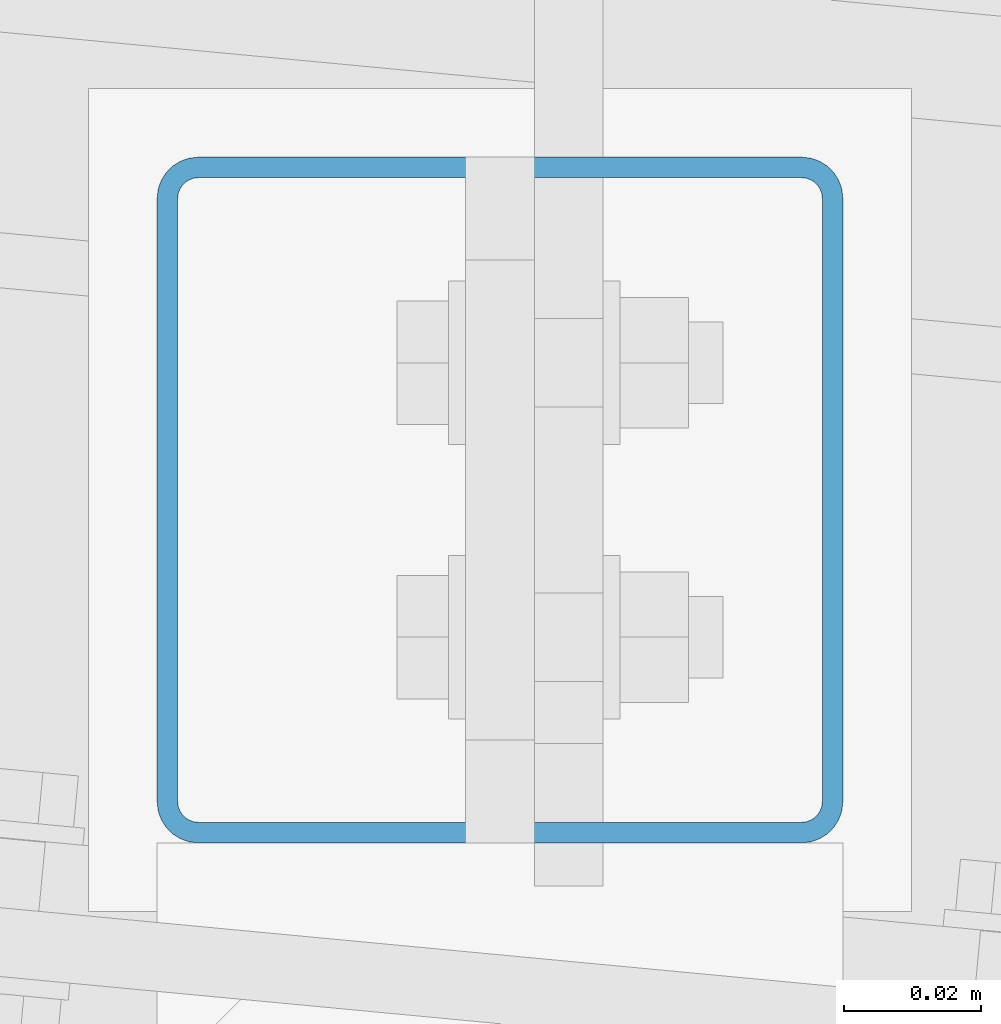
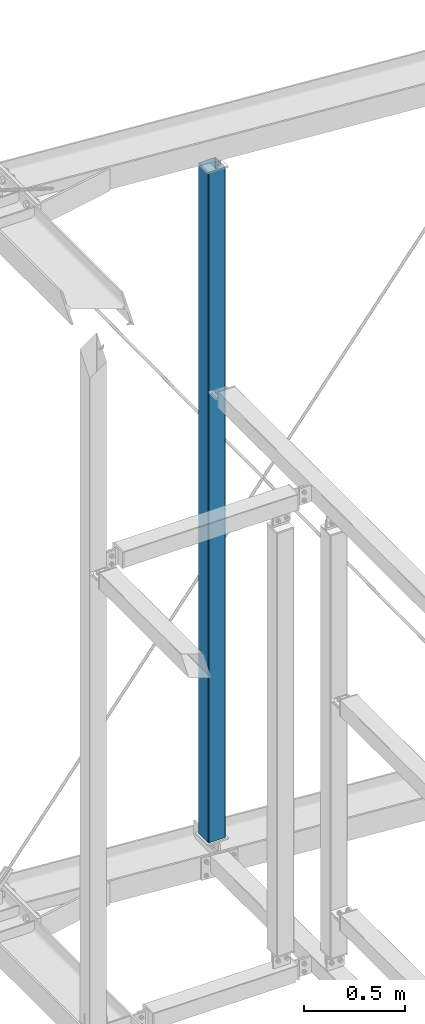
# One storey, part 29 of 271: 1 beam, 1 element without a shape of its own.
"""IFC2X3 building model written with IfcOpenShell, lengths in millimetres."""

from ifc_helpers import new_model, si_unit, frame, origin_with_axes, origin_2d_with_axis, place, context, subcontext, project, spatial, hollow_rectangle, extrude, clip, halfspace, material, type_object, element, aggregate, save


model = new_model("IFC2X3")

# Units and contexts
model_context = context("Model", 3, precision=1e-05, world=origin_with_axes())
body_context = subcontext(model_context, "Body", "Model", "MODEL_VIEW")
ifc_project = project(units=[si_unit("LENGTHUNIT", "METRE", prefix="MILLI"), si_unit("AREAUNIT", "SQUARE_METRE"), si_unit("VOLUMEUNIT", "CUBIC_METRE"), si_unit("MASSUNIT", "GRAM", prefix="KILO"), si_unit("TIMEUNIT", "SECOND"), si_unit("PLANEANGLEUNIT", "RADIAN"), si_unit("SOLIDANGLEUNIT", "STERADIAN"), si_unit("THERMODYNAMICTEMPERATUREUNIT", "DEGREE_CELSIUS"), si_unit("LUMINOUSINTENSITYUNIT", "LUMEN")], contexts=[model_context])

# Site, building, storey
site_placement = place(None, origin_with_axes())
site = spatial("IfcSite", under=ifc_project, at=site_placement, Name="Undefined", CompositionType="ELEMENT")
building_placement = place(site_placement, origin_with_axes())
building = spatial("IfcBuilding", under=site, at=building_placement, Name="Undefined", CompositionType="ELEMENT")
storey_placement = place(building_placement, origin_with_axes())
storey = spatial("IfcBuildingStorey", under=building, at=storey_placement, Name="Undefined", CompositionType="ELEMENT", Elevation=0.0)

# Assembly, beam
assembly_placement = place(storey_placement, origin_with_axes())
assembly = element("IfcElementAssembly", 1, at=assembly_placement, inside=storey, AssemblyPlace="NOTDEFINED", PredefinedType="RIGID_FRAME")
ifc_material = material(Name="STEEL/S355JR")
beam_type = type_object("IfcBeamType", Name="SHS100*3", PredefinedType="NOTDEFINED")
beam_placement = place(assembly_placement, frame((1330.37568709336, 4109.0521198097, 14411.8499999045), z_axis=(0.0, 1.0, 0.0), x_axis=(0.0, 0.0, 1.0)))
beam = element("IfcBeam", 2, at=beam_placement, type_object=beam_type, material=ifc_material, Name="RYGIEL", ObjectType="SHS100*3", context=body_context, shape_type="Clipping", body=[
    clip(clip(extrude(hollow_rectangle(XDim=100.0, YDim=100.0, WallThickness=3.0, InnerFilletRadius=3.0, OuterFilletRadius=6.0, at=origin_2d_with_axis()), frame((4133.0, 0.0, 0.0), z_axis=(-1.0, 0.0, 1.38777878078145e-17), x_axis=(0.0, -1.0, 0.0)), (0.0, 0.0, 1.0), 4133.0), halfspace(frame((4100.9000000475, 15.0, 0.0), z_axis=(-1.0, 0.0, 1.38777878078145e-17), x_axis=(0.0, 0.0, 1.0)), True)), halfspace(frame((44.0999999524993, 15.0, 0.0), z_axis=(1.0, 0.0, 0.0), x_axis=(0.0, 0.0, -1.0)), True)),
])
aggregate(assembly, [beam])

save(model, "model.ifc")
